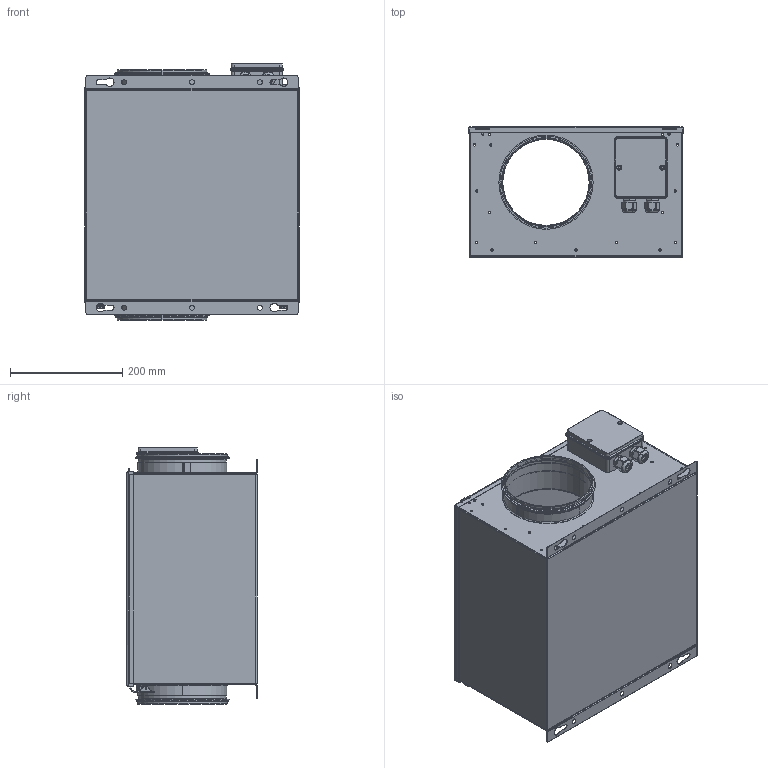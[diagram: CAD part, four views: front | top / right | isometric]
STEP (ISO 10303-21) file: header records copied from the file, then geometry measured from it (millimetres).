
FILE_DESCRIPTION (( 'STEP AP203' ), '1' );
FILE_NAME ('165186_00_ISOR160ECK01_step.step', '2022-10-17T08:43:47', ( '' ), ( '' ), 'SwSTEP 2.0', 'SolidWorks 2021', '' );
FILE_SCHEMA (( 'CONFIG_CONTROL_DESIGN' ));
Length unit declared in the file: millimetre
Products named in the file (1): 165186_00_ISOR160ECK01_step
Bounding box: 382.6 x 231.8 x 457.5 mm (x, y, z)
Surface area: 1576891.2 mm2 (no closed solid volume)
Topology: 0 solids, 67 shells, 761 faces, 2325 edges, 1561 vertices
Faces by surface type: cylinder 374, plane 233, bspline 60, torus 56, cone 38
Entity records: 29164 total; most frequent: CARTESIAN_POINT 7955, DIRECTION 4705, ORIENTED_EDGE 3858, EDGE_CURVE 2325, AXIS2_PLACEMENT_3D 1812, VERTEX_POINT 1561, CIRCLE 1110, LINE 1081
